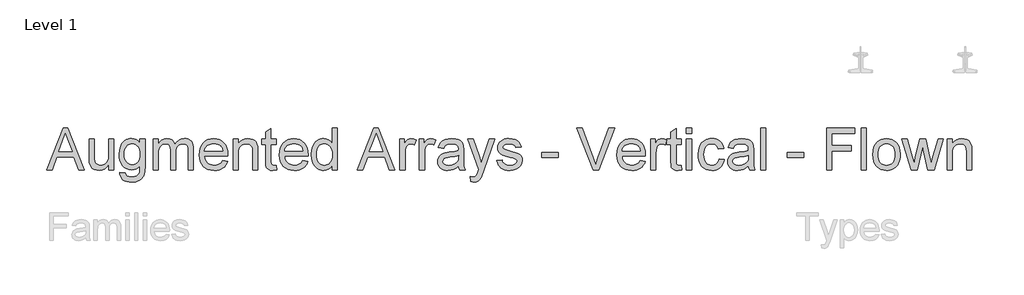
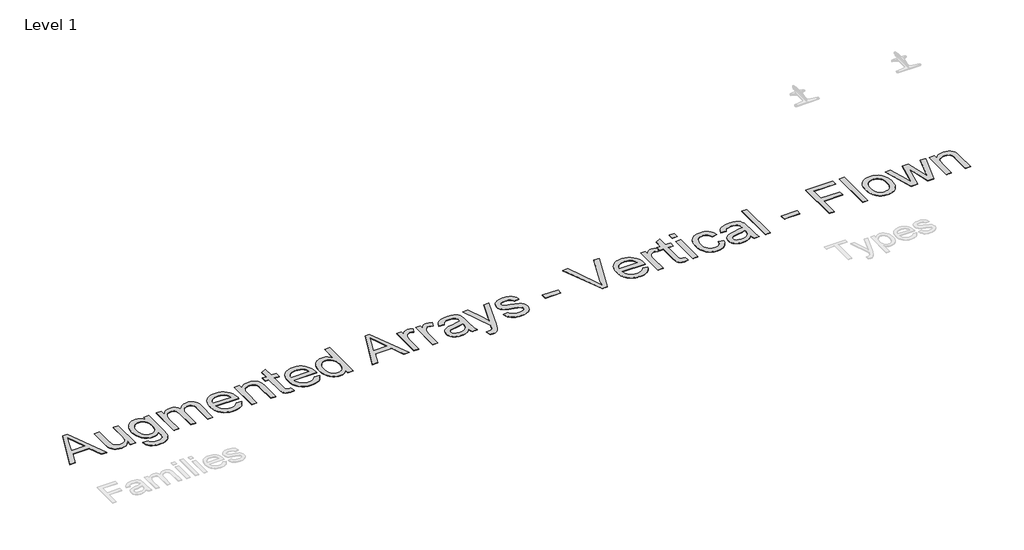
# One storey, part 3 of 9: 1 proxy.
"""IFC4 building model written with IfcOpenShell, lengths in millimetres."""

from ifc_helpers import new_model, si_unit, origin, origin_with_axes, place, context, project, spatial, polyline, outline, extrude, element, save

model = new_model("IFC4")

# Units and contexts
model_context = context("Model", 3, world=origin())
ifc_project = project(units=[si_unit("LENGTHUNIT", "METRE", prefix="MILLI")], contexts=[model_context])

# Site, building, storey
site = spatial("IfcSite", under=ifc_project)
building = spatial("IfcBuilding", under=site)
storey = spatial("IfcBuildingStorey", under=building, Name="Level 1", Elevation=0.0)

# Proxy
placement = place(None, origin())
element("IfcBuildingElementProxy", 1, Name="600mm Arial", ObjectType="600mm Arial", at=placement, inside=storey, context=model_context, shape_type="SweptSolid", body=[
    extrude(outline(polyline([(-21103.7520682, -648.6945164), (-20867.9347605, -57.9252857), (-20805.0501451, -57.9252857), (-20569.2328374, -648.6945164), (-20647.2616836, -648.6945164), (-20714.9059143, -464.0791318), (-20958.223222, -464.0791318), (-21025.723222, -648.6945164), (-21103.7520682, -648.6945164)]), holes=[polyline([(-20931.1078374, -390.232978), (-20741.8770682, -390.232978), (-20795.098222, -244.9925934), (-20836.4924528, -131.7714395), (-20873.271299, -232.3002857), (-20931.1078374, -390.232978)])]), origin_with_axes(), (0.0, 0.0, 1.0), 5.0),
    extrude(outline(polyline([(-20222.646299, -648.6945164), (-20222.646299, -574.1272087), (-20249.365049, -610.7888674), (-20280.4828374, -636.9757664), (-20315.9996643, -652.6879059), (-20355.9155297, -657.9252857), (-20391.8830778, -654.247401), (-20425.3626451, -643.2137472), (-20453.4515874, -626.6272087), (-20473.2472605, -606.2906703), (-20486.5705778, -581.591151), (-20495.2424528, -551.9156703), (-20499.5693759, -483.2618241), (-20499.5693759, -214.8483626), (-20425.723222, -214.8483626), (-20425.723222, -448.5022087), (-20424.6054336, -495.232978), (-20421.2520682, -523.7906703), (-20410.488847, -548.904853), (-20392.0453374, -567.997401), (-20367.1475009, -580.0586991), (-20337.021299, -584.0791318), (-20305.1643278, -579.9685549), (-20275.3626451, -567.6368241), (-20250.7893278, -548.2197568), (-20234.6174528, -522.8531703), (-20225.6390874, -488.1115837), (-20222.646299, -440.5695164), (-20222.646299, -214.8483626), (-20148.8001451, -214.8483626), (-20148.8001451, -648.6945164), (-20222.646299, -648.6945164)])), origin_with_axes(), (0.0, 0.0, 1.0), 5.0),
    extrude(outline(polyline([(-20065.723222, -685.6175934), (-19991.8770682, -694.8483626), (-19983.7280297, -717.9252857), (-19967.9347605, -733.7906703), (-19936.8890874, -746.122401), (-19896.2520682, -750.232978), (-19852.910722, -745.5815357), (-19835.4047124, -739.7672328), (-19820.6751451, -731.6272087), (-19798.3193759, -709.2714395), (-19784.6174528, -679.4156703), (-19780.615049, -647.6488434), (-19779.5693759, -593.309901), (-19804.1426932, -617.5406703), (-19831.5645682, -634.8483626), (-19861.8350009, -645.232978), (-19894.9539913, -648.6945164), (-19935.4422725, -644.6650693), (-19971.0898086, -632.576728), (-20001.8965994, -612.4294924), (-20027.8626451, -584.2233626), (-20048.4651091, -550.3832184), (-20063.1811547, -513.3339395), (-20072.0107821, -473.075526), (-20074.9539913, -429.607978), (-20069.6715393, -369.9865837), (-20053.8241836, -315.1608626), (-20042.0783903, -290.4388073), (-20027.9708182, -268.700526), (-20011.5014672, -249.9460188), (-19992.6703374, -234.1752857), (-19971.7794119, -221.6812953), (-19949.130674, -212.7570164), (-19924.7241235, -207.4024491), (-19898.5597605, -205.6175934), (-19864.0255057, -209.6560549), (-19832.6823567, -221.7714395), (-19804.5303134, -241.9637472), (-19779.5693759, -270.232978), (-19779.5693759, -214.8483626), (-19705.723222, -214.8483626), (-19705.723222, -589.4156703), (-19710.771299, -675.9000453), (-19717.0813951, -708.068014), (-19725.9155297, -732.8531703), (-19737.4855417, -752.8426534), (-19752.0032701, -770.623603), (-19769.4687148, -786.1960188), (-19789.8818759, -799.559901), (-19813.0354216, -810.2870645), (-19838.7220201, -817.9493241), (-19866.9416716, -822.5466799), (-19897.6943759, -824.0791318), (-19933.8737629, -821.9201775), (-19966.4023086, -815.4433145), (-19995.2800129, -804.6485429), (-20020.5068759, -789.5358626), (-20040.8839792, -770.0872448), (-20055.2124047, -746.2846607), (-20063.4921523, -718.1281102), (-20065.723222, -685.6175934)]), holes=[polyline([(-20001.1078374, -424.559901), (-19999.138186, -461.0728217), (-19993.2292317, -492.294276), (-19983.3809744, -518.224264), (-19969.5934143, -538.8627857), (-19952.8310946, -554.6064756), (-19934.0585586, -565.8519684), (-19913.2758062, -572.599264), (-19890.4828374, -574.8483626), (-19867.9152292, -572.6127857), (-19847.2316355, -565.9060549), (-19828.4320562, -554.7281703), (-19811.5164913, -539.0791318), (-19797.5396283, -518.6434347), (-19787.5561547, -493.1055741), (-19781.5660706, -462.4655501), (-19779.5693759, -426.7233626), (-19781.6246643, -392.4730621), (-19787.7905297, -362.7029299), (-19798.066972, -337.4129659), (-19812.4539913, -316.6031703), (-19829.7346403, -300.3546727), (-19848.691972, -288.748603), (-19869.3259865, -281.7849611), (-19891.6366836, -279.4637472), (-19913.5732821, -281.7489034), (-19933.8061547, -288.6043722), (-19952.3353014, -300.0301534), (-19969.160722, -316.0262472), (-19983.137585, -336.5205381), (-19993.1210586, -361.4409107), (-19999.1111427, -390.787365), (-20001.1078374, -424.559901)])]), origin_with_axes(), (0.0, 0.0, 1.0), 5.0),
    extrude(outline(polyline([(-19594.9539913, -648.6945164), (-19594.9539913, -214.8483626), (-19521.1078374, -214.8483626), (-19521.1078374, -286.2425934), (-19498.896299, -253.4481222), (-19470.3386067, -227.7570164), (-19436.4083182, -211.1524491), (-19398.0789913, -205.6175934), (-19357.0092797, -211.2606222), (-19339.5303134, -218.3144083), (-19324.0886067, -228.1897087), (-19299.4972605, -255.2870645), (-19283.4155297, -291.434901), (-19256.4984624, -253.8898289), (-19225.7953374, -227.0719203), (-19191.3061547, -210.9811751), (-19153.0309143, -205.6175934), (-19123.4681139, -207.8486631), (-19097.520097, -214.5418722), (-19075.1868639, -225.6972208), (-19056.4684143, -241.3147087), (-19041.6712389, -261.5746246), (-19031.1018278, -286.6572568), (-19024.7601812, -316.5626054), (-19022.646299, -351.2906703), (-19022.646299, -648.6945164), (-19096.4924528, -648.6945164), (-19096.4924528, -383.0214395), (-19098.2051932, -346.1885068), (-19103.3434143, -321.3627857), (-19112.9708182, -304.3615837), (-19128.1511067, -291.0022087), (-19147.676347, -282.3483626), (-19170.3386067, -279.4637472), (-19191.2655898, -281.3117039), (-19210.3446163, -286.8555741), (-19227.575686, -296.0953578), (-19242.958799, -309.0310549), (-19255.6105417, -326.0412712), (-19264.6475009, -347.5046126), (-19270.0696764, -373.4210789), (-19271.8770682, -403.7906703), (-19271.8770682, -648.6945164), (-19345.723222, -648.6945164), (-19345.723222, -374.8002857), (-19349.9960586, -333.045478), (-19362.8145682, -303.2618241), (-19372.7259264, -292.8501655), (-19385.3686547, -285.4132664), (-19400.7427533, -280.951127), (-19418.848222, -279.4637472), (-19447.2977413, -283.4300934), (-19473.5116836, -295.3291318), (-19495.146299, -314.872401), (-19509.8578374, -341.7714395), (-19518.2953374, -379.091151), (-19521.1078374, -429.8964395), (-19521.1078374, -648.6945164), (-19594.9539913, -648.6945164)])), origin_with_axes(), (0.0, 0.0, 1.0), 5.0),
    extrude(outline(polyline([(-18608.1270682, -519.4637472), (-18535.723222, -528.6945164), (-18546.8244841, -557.6939155), (-18561.8109624, -583.2498049), (-18580.6826571, -605.3621847), (-18603.4395682, -624.0310549), (-18629.8473206, -638.8597809), (-18659.6715393, -649.451728), (-18692.9122244, -655.8068962), (-18729.5693759, -657.9252857), (-18775.3896884, -654.2699371), (-18816.2160105, -643.3038914), (-18852.0483422, -625.0271486), (-18882.8866836, -599.4397087), (-18907.6853615, -567.2537111), (-18925.3987028, -529.1812953), (-18936.0267076, -485.2224611), (-18939.5693759, -435.3772087), (-18935.9906499, -383.841752), (-18925.254472, -338.4180741), (-18907.3608422, -299.1061751), (-18882.3097605, -265.9060549), (-18851.552549, -239.529853), (-18816.5405297, -220.6897087), (-18777.2737028, -209.3856222), (-18733.7520682, -205.6175934), (-18691.6321764, -209.3766078), (-18653.5417317, -220.653651), (-18619.4807341, -239.4487232), (-18589.4491836, -265.7618241), (-18564.93446, -298.8898289), (-18547.4239432, -338.1296126), (-18536.9176331, -383.4811751), (-18533.4155297, -434.9445164), (-18533.848222, -454.8483626), (-18865.723222, -454.8483626), (-18861.4458783, -484.3165116), (-18852.9407701, -510.1248049), (-18840.2078975, -532.2732424), (-18823.2472605, -550.7618241), (-18802.9963591, -565.3381462), (-18780.3926932, -575.7498049), (-18755.4362629, -581.9968001), (-18728.1270682, -584.0791318), (-18688.8241836, -580.2209587), (-18655.723222, -568.6464395), (-18628.8241836, -548.6344203), (-18608.1270682, -519.4637472)]), holes=[polyline([(-18865.723222, -381.0022087), (-18607.2616836, -381.0022087), (-18617.2496643, -341.9877857), (-18625.8404095, -326.6452376), (-18636.8289913, -314.0791318), (-18656.9672124, -298.934901), (-18679.8818759, -288.1175934), (-18705.5729817, -281.6272087), (-18734.0405297, -279.4637472), (-18760.0065754, -281.1900092), (-18783.818174, -286.3687953), (-18805.4753254, -295.0001054), (-18824.9780297, -307.0839395), (-18841.3437148, -322.0614034), (-18853.5898086, -339.373603), (-18861.716311, -359.0205381), (-18865.723222, -381.0022087)])]), origin_with_axes(), (0.0, 0.0, 1.0), 5.0),
    extrude(outline(polyline([(-18459.5693759, -648.6945164), (-18459.5693759, -214.8483626), (-18385.723222, -214.8483626), (-18385.723222, -275.4252857), (-18360.068174, -244.8844203), (-18329.2568759, -223.0695164), (-18293.2893278, -209.9805741), (-18252.1655297, -205.6175934), (-18215.7652893, -209.1332184), (-18182.4299528, -219.6800934), (-18154.629472, -235.9421126), (-18134.833799, -256.6031703), (-18121.4023086, -281.6091799), (-18112.6943759, -310.9060549), (-18108.8001451, -382.3002857), (-18108.8001451, -648.6945164), (-18182.646299, -648.6945164), (-18182.646299, -392.2522087), (-18184.7737028, -354.0671126), (-18191.1559143, -326.9156703), (-18202.9287509, -307.4625453), (-18221.2280297, -292.372401), (-18244.6835586, -282.6909107), (-18271.9251451, -279.4637472), (-18294.3485225, -281.2756462), (-18315.176347, -286.7113434), (-18334.4086187, -295.7708385), (-18352.0453374, -308.4541318), (-18366.7794119, -326.2035309), (-18377.3037509, -350.4613434), (-18383.6183542, -381.2275693), (-18385.723222, -418.5022087), (-18385.723222, -648.6945164), (-18459.5693759, -648.6945164)])), origin_with_axes(), (0.0, 0.0, 1.0), 5.0),
    extrude(outline(polyline([(-17850.3386067, -587.107978), (-17841.1078374, -650.857978), (-17896.348222, -657.9252857), (-17931.7929336, -654.8603818), (-17958.223222, -645.6656703), (-17976.9011067, -631.4949972), (-17989.0886067, -613.5022087), (-17995.7953374, -582.6007664), (-17998.0309143, -529.7041318), (-17998.0309143, -288.6945164), (-18053.4155297, -288.6945164), (-18053.4155297, -214.8483626), (-17998.0309143, -214.8483626), (-17998.0309143, -109.4156703), (-17924.1847605, -66.0022087), (-17924.1847605, -214.8483626), (-17850.3386067, -214.8483626), (-17850.3386067, -288.6945164), (-17924.1847605, -288.6945164), (-17924.1847605, -527.5406703), (-17920.2905297, -565.6175934), (-17907.6703374, -579.1031703), (-17897.0152893, -582.8351414), (-17882.5020682, -584.0791318), (-17850.3386067, -587.107978)])), origin_with_axes(), (0.0, 0.0, 1.0), 5.0),
    extrude(outline(polyline([(-17472.7424528, -519.4637472), (-17400.3386067, -528.6945164), (-17411.4398687, -557.6939155), (-17426.426347, -583.2498049), (-17445.2980417, -605.3621847), (-17468.0549528, -624.0310549), (-17494.4627052, -638.8597809), (-17524.286924, -649.451728), (-17557.5276091, -655.8068962), (-17594.1847605, -657.9252857), (-17640.005073, -654.2699371), (-17680.8313951, -643.3038914), (-17716.6637268, -625.0271486), (-17747.5020682, -599.4397087), (-17772.3007461, -567.2537111), (-17790.0140874, -529.1812953), (-17800.6420922, -485.2224611), (-17804.1847605, -435.3772087), (-17800.6060345, -383.841752), (-17789.8698567, -338.4180741), (-17771.9762268, -299.1061751), (-17746.9251451, -265.9060549), (-17716.1679336, -239.529853), (-17681.1559143, -220.6897087), (-17641.8890874, -209.3856222), (-17598.3674528, -205.6175934), (-17556.247561, -209.3766078), (-17518.1571163, -220.653651), (-17484.0961187, -239.4487232), (-17454.0645682, -265.7618241), (-17429.5498446, -298.8898289), (-17412.0393278, -338.1296126), (-17401.5330177, -383.4811751), (-17398.0309143, -434.9445164), (-17398.4636067, -454.8483626), (-17730.3386067, -454.8483626), (-17726.0612629, -484.3165116), (-17717.5561547, -510.1248049), (-17704.8232821, -532.2732424), (-17687.8626451, -550.7618241), (-17667.6117437, -565.3381462), (-17645.0080778, -575.7498049), (-17620.0516475, -581.9968001), (-17592.7424528, -584.0791318), (-17553.4395682, -580.2209587), (-17520.3386067, -568.6464395), (-17493.4395682, -548.6344203), (-17472.7424528, -519.4637472)]), holes=[polyline([(-17730.3386067, -381.0022087), (-17471.8770682, -381.0022087), (-17481.865049, -341.9877857), (-17490.4557942, -326.6452376), (-17501.4443759, -314.0791318), (-17521.582597, -298.934901), (-17544.4972605, -288.1175934), (-17570.1883663, -281.6272087), (-17598.6559143, -279.4637472), (-17624.62196, -281.1900092), (-17648.4335586, -286.3687953), (-17670.09071, -295.0001054), (-17689.5934143, -307.0839395), (-17705.9590994, -322.0614034), (-17718.2051932, -339.373603), (-17726.3316956, -359.0205381), (-17730.3386067, -381.0022087)])]), origin_with_axes(), (0.0, 0.0, 1.0), 5.0),
    extrude(outline(polyline([(-17056.4924528, -648.6945164), (-17056.4924528, -579.0310549), (-17078.5868038, -613.5472809), (-17105.3506259, -638.201728), (-17136.7839192, -652.9943962), (-17172.8866836, -657.9252857), (-17197.2616836, -656.1404299), (-17220.6270682, -650.7858626), (-17242.9828374, -641.8615837), (-17264.3289913, -629.3675934), (-17283.9984624, -613.67799), (-17301.3241836, -595.1668722), (-17316.3061547, -573.83424), (-17328.9443759, -549.6800934), (-17338.9774288, -523.1641679), (-17346.1438951, -494.7461991), (-17351.8770682, -432.2041318), (-17346.5946163, -370.4373049), (-17330.7472605, -314.6560549), (-17318.8662509, -289.8032905), (-17304.3530297, -268.0334587), (-17287.207597, -249.3465597), (-17267.4299528, -233.7425934), (-17245.7187148, -221.4379059), (-17222.7725009, -212.6488434), (-17198.591311, -207.3754059), (-17173.1751451, -205.6175934), (-17137.0453374, -210.6476414), (-17105.098222, -225.7377857), (-17078.0188951, -248.8687953), (-17056.4924528, -278.0214395), (-17056.4924528, -57.9252857), (-16982.646299, -57.9252857), (-16982.646299, -648.6945164), (-17056.4924528, -648.6945164)]), holes=[polyline([(-17278.0309143, -431.9156703), (-17275.9485826, -467.7254659), (-17269.7015874, -498.7125453), (-17259.2899288, -524.8769083), (-17244.7136067, -546.2185549), (-17227.3067557, -562.7825573), (-17208.4035105, -574.6139876), (-17188.0038711, -581.7128458), (-17166.1078374, -584.0791318), (-17144.1081379, -581.8210188), (-17123.8301932, -575.0466799), (-17105.2740033, -563.756115), (-17088.4395682, -547.9493241), (-17074.4627052, -527.5001054), (-17064.4792317, -502.2822568), (-17058.4891475, -472.2957784), (-17056.4924528, -437.5406703), (-17058.5252052, -399.4367039), (-17064.6234624, -366.7594203), (-17074.7872244, -339.5088193), (-17089.0164913, -317.684901), (-17106.2205177, -300.9631462), (-17125.3085586, -289.0190357), (-17146.2806139, -281.8525693), (-17169.1366836, -279.4637472), (-17191.4654095, -281.7579179), (-17211.865049, -288.6404299), (-17230.3356018, -300.1112833), (-17246.8770682, -316.170478), (-17260.5068759, -337.1695765), (-17270.2424528, -363.4601414), (-17276.083799, -395.0421727), (-17278.0309143, -431.9156703)])]), origin_with_axes(), (0.0, 0.0, 1.0), 5.0),
    extrude(outline(polyline([(-16700.6751451, -648.6945164), (-16464.8578374, -57.9252857), (-16401.973222, -57.9252857), (-16166.1559143, -648.6945164), (-16244.1847605, -648.6945164), (-16311.8289913, -464.0791318), (-16555.146299, -464.0791318), (-16622.646299, -648.6945164), (-16700.6751451, -648.6945164)]), holes=[polyline([(-16528.0309143, -390.232978), (-16338.8001451, -390.232978), (-16392.021299, -244.9925934), (-16433.4155297, -131.7714395), (-16470.1943759, -232.3002857), (-16528.0309143, -390.232978)])]), origin_with_axes(), (0.0, 0.0, 1.0), 5.0),
    extrude(outline(polyline([(-16096.4924528, -648.6945164), (-16096.4924528, -214.8483626), (-16031.8770682, -214.8483626), (-16031.8770682, -279.0310549), (-16008.0068759, -241.8195164), (-15986.0116836, -219.8964395), (-15963.9443759, -209.1873049), (-15939.8578374, -205.6175934), (-15903.0789913, -211.3147087), (-15865.723222, -228.4060549), (-15890.3866836, -294.607978), (-15916.348222, -283.2498049), (-15942.3097605, -279.4637472), (-15964.3590393, -283.1055741), (-15984.0645682, -294.0310549), (-15999.9840393, -311.4108626), (-16010.6751451, -334.4156703), (-16019.6535105, -375.6656703), (-16022.646299, -420.6656703), (-16022.646299, -648.6945164), (-16096.4924528, -648.6945164)])), origin_with_axes(), (0.0, 0.0, 1.0), 5.0),
    extrude(outline(polyline([(-15819.5693759, -648.6945164), (-15819.5693759, -214.8483626), (-15754.9539913, -214.8483626), (-15754.9539913, -279.0310549), (-15731.083799, -241.8195164), (-15709.0886067, -219.8964395), (-15687.021299, -209.1873049), (-15662.9347605, -205.6175934), (-15626.1559143, -211.3147087), (-15588.8001451, -228.4060549), (-15613.4636067, -294.607978), (-15639.4251451, -283.2498049), (-15665.3866836, -279.4637472), (-15687.4359624, -283.1055741), (-15707.1414913, -294.0310549), (-15723.0609624, -311.4108626), (-15733.7520682, -334.4156703), (-15742.7304336, -375.6656703), (-15745.723222, -420.6656703), (-15745.723222, -648.6945164), (-15819.5693759, -648.6945164)])), origin_with_axes(), (0.0, 0.0, 1.0), 5.0),
    extrude(outline(polyline([(-15265.723222, -593.309901), (-15301.005674, -623.5623049), (-15337.333799, -643.357978), (-15375.536924, -654.2834587), (-15416.4443759, -657.9252857), (-15449.3244841, -655.7347809), (-15478.1571163, -649.1632664), (-15502.9422725, -638.2107424), (-15523.6799528, -622.8772087), (-15540.0546523, -604.1362232), (-15551.7508663, -582.9613434), (-15558.7685946, -559.3525693), (-15561.1078374, -533.309901), (-15557.5741836, -502.6969203), (-15546.973222, -474.8964395), (-15530.6210586, -451.0983626), (-15509.833799, -432.4925934), (-15485.4047124, -418.4300934), (-15458.1270682, -408.2618241), (-15394.2328374, -397.1560549), (-15318.7280297, -385.4733626), (-15266.1559143, -371.7714395), (-15265.723222, -355.3291318), (-15270.8073567, -322.372401), (-15277.1625249, -310.1668722), (-15286.0597605, -300.809901), (-15301.4383663, -291.4709587), (-15320.1703374, -284.8002857), (-15367.6943759, -279.4637472), (-15411.6847605, -283.0154299), (-15442.4059143, -293.670478), (-15463.3554336, -313.3760068), (-15478.0309143, -344.0791318), (-15551.8770682, -334.8483626), (-15539.0585586, -294.4637472), (-15519.9299528, -262.732978), (-15492.7063951, -238.466151), (-15455.6030297, -220.4733626), (-15410.224424, -209.3315357), (-15358.1751451, -205.6175934), (-15308.2532701, -208.8988434), (-15268.6799528, -218.7425934), (-15238.8422124, -233.544276), (-15218.1270682, -251.6993241), (-15204.3890874, -274.1452376), (-15195.4828374, -301.8195164), (-15191.8770682, -366.434901), (-15191.8770682, -458.309901), (-15188.1270682, -586.6031703), (-15182.5741836, -618.3159107), (-15173.4155297, -648.6945164), (-15247.2616836, -648.6945164), (-15259.0886067, -623.0214395), (-15265.723222, -593.309901)]), holes=[polyline([(-15265.723222, -445.6175934), (-15315.3386067, -457.9132664), (-15384.8578374, -468.2618241), (-15448.3914913, -480.232978), (-15464.9239432, -488.4180741), (-15477.1655297, -499.7041318), (-15484.7376451, -513.2257664), (-15487.2616836, -528.1175934), (-15481.7628855, -550.076728), (-15465.2664913, -568.0695164), (-15438.1330778, -580.076728), (-15400.723222, -584.0791318), (-15361.0597605, -579.6620645), (-15326.0116836, -566.4108626), (-15297.598222, -546.8856222), (-15277.8386067, -523.6464395), (-15269.0765874, -499.7041318), (-15266.1559143, -466.5310549), (-15265.723222, -445.6175934)])]), origin_with_axes(), (0.0, 0.0, 1.0), 5.0),
    extrude(outline(polyline([(-15090.3386067, -814.8483626), (-15099.5693759, -743.7425934), (-15062.0693759, -750.232978), (-15042.3458182, -748.1957184), (-15027.021299, -742.0839395), (-15015.0862028, -732.3303337), (-15005.5309143, -719.3675934), (-14985.3386067, -664.9925934), (-14979.5693759, -647.107978), (-15136.4924528, -214.8483626), (-15058.6078374, -214.8483626), (-14975.3866836, -455.7137472), (-14946.396299, -552.059901), (-14917.4059143, -466.9637472), (-14831.8770682, -214.8483626), (-14754.5693759, -214.8483626), (-14905.5789913, -659.0791318), (-14944.8097605, -755.4252857), (-14964.8938951, -786.1824972), (-14987.646299, -807.4925934), (-15014.0765874, -819.9324972), (-15045.1943759, -824.0791318), (-15066.5765874, -821.7714395), (-15090.3386067, -814.8483626)])), origin_with_axes(), (0.0, 0.0, 1.0), 5.0),
    extrude(outline(polyline([(-14721.1078374, -519.4637472), (-14647.2616836, -510.232978), (-14642.7995442, -527.0719203), (-14635.615049, -541.8195164), (-14625.708198, -554.4757664), (-14613.0789913, -565.0406703), (-14597.6913711, -573.3699972), (-14579.5092797, -579.3195164), (-14534.7616836, -584.0791318), (-14490.5549528, -579.716151), (-14473.3734624, -574.2624251), (-14459.473222, -566.6272087), (-14441.083799, -547.6608626), (-14434.9539913, -525.6656703), (-14436.4954576, -515.6957184), (-14441.1198567, -506.8435549), (-14459.6174528, -492.4925934), (-14487.2737028, -483.1175934), (-14535.6270682, -471.434901), (-14603.0188951, -451.9457184), (-14646.8289913, -435.3050934), (-14674.9720201, -417.1500453), (-14695.3626451, -393.1175934), (-14707.7484624, -364.7401895), (-14711.8770682, -333.5502857), (-14708.5597605, -304.9385068), (-14698.6078374, -278.5262472), (-14682.9227413, -255.3591799), (-14662.4059143, -236.482978), (-14642.0152893, -224.6019684), (-14615.458799, -214.6320164), (-14584.755674, -207.8711991), (-14551.9251451, -205.6175934), (-14503.8602413, -209.2413914), (-14462.0693759, -220.1127857), (-14428.4636067, -237.1680741), (-14404.9539913, -259.3435549), (-14389.3770682, -288.279853), (-14379.5693759, -325.6175934), (-14453.4155297, -334.8483626), (-14462.7364432, -311.6091799), (-14481.1799528, -294.1031703), (-14508.926347, -283.123603), (-14546.1559143, -279.4637472), (-14588.5597605, -282.9613434), (-14616.8289913, -293.4541318), (-14632.7304336, -308.5983626), (-14638.0309143, -326.0502857), (-14635.8313951, -337.4084587), (-14629.2328374, -347.5406703), (-14617.9467797, -356.591151), (-14601.6847605, -363.8387472), (-14538.0789913, -379.559901), (-14429.6895682, -414.3195164), (-14401.0597605, -430.9421126), (-14379.3530297, -453.6945164), (-14365.6691355, -482.6488434), (-14361.1078374, -517.8772087), (-14366.4624047, -554.295478), (-14382.5261067, -588.5502857), (-14408.6859624, -617.9553337), (-14444.3289913, -639.8243241), (-14487.3818759, -653.4000453), (-14535.771299, -657.9252857), (-14575.5158903, -655.7437953), (-14610.2304336, -649.1993241), (-14639.9149288, -638.2918722), (-14664.5693759, -623.0214395), (-14684.707597, -603.4601414), (-14700.8434143, -579.6800934), (-14712.9768278, -551.6812953), (-14721.1078374, -519.4637472)])), origin_with_axes(), (0.0, 0.0, 1.0), 5.0),
    extrude(outline(polyline([(-14084.1847605, -473.309901), (-14084.1847605, -399.4637472), (-13853.4155297, -399.4637472), (-13853.4155297, -473.309901), (-14084.1847605, -473.309901)])), origin_with_axes(), (0.0, 0.0, 1.0), 5.0),
    extrude(outline(polyline([(-13355.8193759, -648.6945164), (-13590.9155297, -57.9252857), (-13511.8770682, -57.9252857), (-13354.521299, -483.5502857), (-13322.646299, -579.4637472), (-13291.2039913, -483.5502857), (-13133.4155297, -57.9252857), (-13054.3770682, -57.9252857), (-13279.521299, -648.6945164), (-13355.8193759, -648.6945164)])), origin_with_axes(), (0.0, 0.0, 1.0), 5.0),
    extrude(outline(polyline([(-12691.2039913, -519.4637472), (-12618.8001451, -528.6945164), (-12629.9014071, -557.6939155), (-12644.8878855, -583.2498049), (-12663.7595802, -605.3621847), (-12686.5164913, -624.0310549), (-12712.9242437, -638.8597809), (-12742.7484624, -649.451728), (-12775.9891475, -655.8068962), (-12812.646299, -657.9252857), (-12858.4666115, -654.2699371), (-12899.2929336, -643.3038914), (-12935.1252653, -625.0271486), (-12965.9636067, -599.4397087), (-12990.7622845, -567.2537111), (-13008.4756259, -529.1812953), (-13019.1036307, -485.2224611), (-13022.646299, -435.3772087), (-13019.067573, -383.841752), (-13008.3313951, -338.4180741), (-12990.4377653, -299.1061751), (-12965.3866836, -265.9060549), (-12934.629472, -239.529853), (-12899.6174528, -220.6897087), (-12860.3506259, -209.3856222), (-12816.8289913, -205.6175934), (-12774.7090994, -209.3766078), (-12736.6186547, -220.653651), (-12702.5576571, -239.4487232), (-12672.5261067, -265.7618241), (-12648.0113831, -298.8898289), (-12630.5008663, -338.1296126), (-12619.9945562, -383.4811751), (-12616.4924528, -434.9445164), (-12616.9251451, -454.8483626), (-12948.8001451, -454.8483626), (-12944.5228014, -484.3165116), (-12936.0176932, -510.1248049), (-12923.2848206, -532.2732424), (-12906.3241836, -550.7618241), (-12886.0732821, -565.3381462), (-12863.4696163, -575.7498049), (-12838.513186, -581.9968001), (-12811.2039913, -584.0791318), (-12771.9011067, -580.2209587), (-12738.8001451, -568.6464395), (-12711.9011067, -548.6344203), (-12691.2039913, -519.4637472)]), holes=[polyline([(-12948.8001451, -381.0022087), (-12690.3386067, -381.0022087), (-12700.3265874, -341.9877857), (-12708.9173326, -326.6452376), (-12719.9059143, -314.0791318), (-12740.0441355, -298.934901), (-12762.958799, -288.1175934), (-12788.6499047, -281.6272087), (-12817.1174528, -279.4637472), (-12843.0834985, -281.1900092), (-12866.895097, -286.3687953), (-12888.5522485, -295.0001054), (-12908.0549528, -307.0839395), (-12924.4206379, -322.0614034), (-12936.6667317, -339.373603), (-12944.7932341, -359.0205381), (-12948.8001451, -381.0022087)])]), origin_with_axes(), (0.0, 0.0, 1.0), 5.0),
    extrude(outline(polyline([(-12542.646299, -648.6945164), (-12542.646299, -214.8483626), (-12478.0309143, -214.8483626), (-12478.0309143, -279.0310549), (-12454.160722, -241.8195164), (-12432.1655297, -219.8964395), (-12410.098222, -209.1873049), (-12386.0116836, -205.6175934), (-12349.2328374, -211.3147087), (-12311.8770682, -228.4060549), (-12336.5405297, -294.607978), (-12362.5020682, -283.2498049), (-12388.4636067, -279.4637472), (-12410.5128855, -283.1055741), (-12430.2184143, -294.0310549), (-12446.1378855, -311.4108626), (-12456.8289913, -334.4156703), (-12465.8073567, -375.6656703), (-12468.8001451, -420.6656703), (-12468.8001451, -648.6945164), (-12542.646299, -648.6945164)])), origin_with_axes(), (0.0, 0.0, 1.0), 5.0),
    extrude(outline(polyline([(-12108.8001451, -587.107978), (-12099.5693759, -650.857978), (-12154.8097605, -657.9252857), (-12190.254472, -654.8603818), (-12216.6847605, -645.6656703), (-12235.3626451, -631.4949972), (-12247.5501451, -613.5022087), (-12254.2568759, -582.6007664), (-12256.4924528, -529.7041318), (-12256.4924528, -288.6945164), (-12311.8770682, -288.6945164), (-12311.8770682, -214.8483626), (-12256.4924528, -214.8483626), (-12256.4924528, -109.4156703), (-12182.646299, -66.0022087), (-12182.646299, -214.8483626), (-12108.8001451, -214.8483626), (-12108.8001451, -288.6945164), (-12182.646299, -288.6945164), (-12182.646299, -527.5406703), (-12178.7520682, -565.6175934), (-12166.1318759, -579.1031703), (-12155.4768278, -582.8351414), (-12140.9636067, -584.0791318), (-12108.8001451, -587.107978)])), origin_with_axes(), (0.0, 0.0, 1.0), 5.0),
    extrude(outline(polyline([(-12034.9539913, -648.6945164), (-12034.9539913, -214.8483626), (-11961.1078374, -214.8483626), (-11961.1078374, -648.6945164), (-12034.9539913, -648.6945164)])), origin_with_axes(), (0.0, 0.0, 1.0), 5.0),
    extrude(outline(polyline([(-12034.9539913, -131.7714395), (-12034.9539913, -57.9252857), (-11961.1078374, -57.9252857), (-11961.1078374, -131.7714395), (-12034.9539913, -131.7714395)])), origin_with_axes(), (0.0, 0.0, 1.0), 5.0),
    extrude(outline(polyline([(-11573.4155297, -491.7714395), (-11499.5693759, -501.0022087), (-11507.6012268, -535.8474611), (-11520.1583182, -566.6812953), (-11537.2406499, -593.5037111), (-11558.848222, -616.3147087), (-11584.0705778, -634.5193361), (-11611.9972605, -647.5226414), (-11642.6282701, -655.3246246), (-11675.9636067, -657.9252857), (-11717.3803735, -654.2969804), (-11754.5152893, -643.4120645), (-11787.3683542, -625.2705381), (-11815.9395682, -599.872401), (-11839.0660706, -567.6954179), (-11855.5850009, -529.217353), (-11865.4963591, -484.4382063), (-11868.8001451, -433.357978), (-11863.1571163, -367.6428337), (-11856.1033302, -338.0710188), (-11846.2280297, -310.6897087), (-11833.4636067, -286.0487833), (-11817.7424528, -264.6981222), (-11799.0645682, -246.6377256), (-11777.4299528, -231.8675934), (-11753.8166716, -220.3832184), (-11729.2027893, -212.1800934), (-11703.5883062, -207.2582184), (-11676.973222, -205.6175934), (-11644.2103014, -207.8711991), (-11614.5753855, -214.6320164), (-11588.0684744, -225.9000453), (-11564.6895682, -241.6752857), (-11544.8353014, -261.5971607), (-11528.9023086, -285.3050934), (-11516.8905898, -312.7990837), (-11508.8001451, -344.0791318), (-11582.646299, -353.309901), (-11596.0417317, -321.092353), (-11616.9011067, -297.997401), (-11644.0705778, -284.0971607), (-11676.396299, -279.4637472), (-11701.4879456, -281.7443962), (-11724.1186547, -288.5863434), (-11744.2884264, -299.9895885), (-11761.9972605, -315.9541318), (-11776.4158302, -336.8495645), (-11786.7148086, -363.045478), (-11792.8941956, -394.5418722), (-11794.9539913, -431.3387472), (-11792.9392677, -468.6900092), (-11786.895097, -500.5514876), (-11776.8214792, -526.9231823), (-11762.7184143, -547.8050934), (-11745.3611427, -563.6749852), (-11725.5249047, -575.0106222), (-11703.2097004, -581.8120044), (-11678.4155297, -584.0791318), (-11640.176347, -578.4180741), (-11623.6393879, -571.341752), (-11608.8241836, -561.434901), (-11596.1453975, -548.5893482), (-11586.0176932, -532.6969203), (-11578.4410706, -513.7576174), (-11573.4155297, -491.7714395)])), origin_with_axes(), (0.0, 0.0, 1.0), 5.0),
    extrude(outline(polyline([(-11158.0309143, -593.309901), (-11193.3133663, -623.5623049), (-11229.6414913, -643.357978), (-11267.8446163, -654.2834587), (-11308.7520682, -657.9252857), (-11341.6321764, -655.7347809), (-11370.4648086, -649.1632664), (-11395.2499648, -638.2107424), (-11415.9876451, -622.8772087), (-11432.3623446, -604.1362232), (-11444.0585586, -582.9613434), (-11451.0762869, -559.3525693), (-11453.4155297, -533.309901), (-11449.8818759, -502.6969203), (-11439.2809143, -474.8964395), (-11422.9287509, -451.0983626), (-11402.1414913, -432.4925934), (-11377.7124047, -418.4300934), (-11350.4347605, -408.2618241), (-11286.5405297, -397.1560549), (-11211.035722, -385.4733626), (-11158.4636067, -371.7714395), (-11158.0309143, -355.3291318), (-11163.115049, -322.372401), (-11169.4702172, -310.1668722), (-11178.3674528, -300.809901), (-11193.7460586, -291.4709587), (-11212.4780297, -284.8002857), (-11260.0020682, -279.4637472), (-11303.9924528, -283.0154299), (-11334.7136067, -293.670478), (-11355.6631259, -313.3760068), (-11370.3386067, -344.0791318), (-11444.1847605, -334.8483626), (-11431.3662509, -294.4637472), (-11412.2376451, -262.732978), (-11385.0140874, -238.466151), (-11347.910722, -220.4733626), (-11302.5321163, -209.3315357), (-11250.4828374, -205.6175934), (-11200.5609624, -208.8988434), (-11160.9876451, -218.7425934), (-11131.1499047, -233.544276), (-11110.4347605, -251.6993241), (-11096.6967797, -274.1452376), (-11087.7905297, -301.8195164), (-11084.1847605, -366.434901), (-11084.1847605, -458.309901), (-11080.4347605, -586.6031703), (-11074.8818759, -618.3159107), (-11065.723222, -648.6945164), (-11139.5693759, -648.6945164), (-11151.396299, -623.0214395), (-11158.0309143, -593.309901)]), holes=[polyline([(-11158.0309143, -445.6175934), (-11207.646299, -457.9132664), (-11277.1655297, -468.2618241), (-11340.6991836, -480.232978), (-11357.2316355, -488.4180741), (-11369.473222, -499.7041318), (-11377.0453374, -513.2257664), (-11379.5693759, -528.1175934), (-11374.0705778, -550.076728), (-11357.5741836, -568.0695164), (-11330.4407701, -580.076728), (-11293.0309143, -584.0791318), (-11253.3674528, -579.6620645), (-11218.3193759, -566.4108626), (-11189.9059143, -546.8856222), (-11170.146299, -523.6464395), (-11161.3842797, -499.7041318), (-11158.4636067, -466.5310549), (-11158.0309143, -445.6175934)])]), origin_with_axes(), (0.0, 0.0, 1.0), 5.0),
    extrude(outline(polyline([(-10982.646299, -648.6945164), (-10982.646299, -57.9252857), (-10908.8001451, -57.9252857), (-10908.8001451, -648.6945164), (-10982.646299, -648.6945164)])), origin_with_axes(), (0.0, 0.0, 1.0), 5.0),
    extrude(outline(polyline([(-10604.1847605, -473.309901), (-10604.1847605, -399.4637472), (-10373.4155297, -399.4637472), (-10373.4155297, -473.309901), (-10604.1847605, -473.309901)])), origin_with_axes(), (0.0, 0.0, 1.0), 5.0),
    extrude(outline(polyline([(-10050.3386067, -648.6945164), (-10050.3386067, -57.9252857), (-9653.4155297, -57.9252857), (-9653.4155297, -131.7714395), (-9976.4924528, -131.7714395), (-9976.4924528, -307.1560549), (-9699.5693759, -307.1560549), (-9699.5693759, -381.0022087), (-9976.4924528, -381.0022087), (-9976.4924528, -648.6945164), (-10050.3386067, -648.6945164)])), origin_with_axes(), (0.0, 0.0, 1.0), 5.0),
    extrude(outline(polyline([(-9561.1078374, -648.6945164), (-9561.1078374, -57.9252857), (-9487.2616836, -57.9252857), (-9487.2616836, -648.6945164), (-9561.1078374, -648.6945164)])), origin_with_axes(), (0.0, 0.0, 1.0), 5.0),
    extrude(outline(polyline([(-9394.9539913, -431.7714395), (-9390.9606018, -375.5845405), (-9378.9804336, -327.1680741), (-9359.0134865, -286.5220405), (-9331.0597605, -253.6464395), (-9302.9167317, -232.6338193), (-9271.8530297, -217.6248049), (-9237.8686547, -208.6193962), (-9200.9636067, -205.6175934), (-9160.2229216, -209.2729419), (-9123.3854817, -220.2389876), (-9090.4512869, -238.5157304), (-9061.4203374, -264.1031703), (-9037.7259264, -296.1359227), (-9020.801347, -333.748603), (-9010.6465994, -376.9412111), (-9007.2616836, -425.7137472), (-9008.7580778, -465.2419924), (-9013.2472605, -500.3171126), (-9020.7292317, -530.9391078), (-9031.2039913, -557.107978), (-9044.5408302, -579.7116438), (-9060.6090393, -599.638026), (-9079.4086187, -616.8871246), (-9100.9395682, -631.4589395), (-9124.3635466, -643.0379659), (-9148.8422124, -651.3086991), (-9174.3755658, -656.271139), (-9200.9636067, -657.9252857), (-9242.2992437, -654.2834587), (-9279.4792317, -643.357978), (-9312.5035706, -625.1488434), (-9341.3722605, -599.6560549), (-9364.8142677, -567.3123049), (-9381.5585586, -528.5502857), (-9391.6051331, -483.3699972), (-9394.9539913, -431.7714395)]), holes=[polyline([(-9321.1078374, -431.6272087), (-9318.9714192, -467.4460188), (-9312.5621643, -498.4601414), (-9301.880073, -524.6695765), (-9286.9251451, -546.0743241), (-9268.7340393, -562.7014275), (-9248.3434143, -574.5779299), (-9225.7532701, -581.7038313), (-9200.9636067, -584.0791318), (-9176.3001451, -581.6903097), (-9153.8001451, -574.5238434), (-9133.4636067, -562.5797328), (-9115.2905297, -545.857978), (-9100.3356018, -524.2413914), (-9089.6535105, -497.6127857), (-9083.2442557, -465.9721607), (-9081.1078374, -429.3195164), (-9083.2577773, -394.6365236), (-9089.707597, -364.4336991), (-9100.4572966, -338.7110429), (-9115.5068759, -317.4685549), (-9133.747561, -300.8414515), (-9154.0705778, -288.9649491), (-9176.4759264, -281.8390477), (-9200.9636067, -279.4637472), (-9225.7532701, -281.8300333), (-9248.3434143, -288.9288914), (-9268.7340393, -300.7603217), (-9286.9251451, -317.3243241), (-9301.880073, -338.6659708), (-9312.5621643, -364.8303337), (-9318.9714192, -395.8174131), (-9321.1078374, -431.6272087)])]), origin_with_axes(), (0.0, 0.0, 1.0), 5.0),
    extrude(outline(polyline([(-8852.2136067, -648.6945164), (-8984.1847605, -214.8483626), (-8907.4539913, -214.8483626), (-8832.598222, -467.9733626), (-8810.2424528, -558.4060549), (-8791.9251451, -471.2906703), (-8732.3578374, -214.8483626), (-8644.3770682, -214.8483626), (-8585.098222, -470.5695164), (-8568.8001451, -549.4637472), (-8545.4347605, -466.2425934), (-8470.4347605, -214.8483626), (-8393.4155297, -214.8483626), (-8526.396299, -648.6945164), (-8615.6751451, -648.6945164), (-8672.3578374, -394.2714395), (-8688.8001451, -314.9445164), (-8761.9251451, -648.6945164), (-8852.2136067, -648.6945164)])), origin_with_axes(), (0.0, 0.0, 1.0), 5.0),
    extrude(outline(polyline([(-8342.646299, -648.6945164), (-8342.646299, -214.8483626), (-8268.8001451, -214.8483626), (-8268.8001451, -275.4252857), (-8243.145097, -244.8844203), (-8212.333799, -223.0695164), (-8176.3662509, -209.9805741), (-8135.2424528, -205.6175934), (-8098.8422124, -209.1332184), (-8065.5068759, -219.6800934), (-8037.7063951, -235.9421126), (-8017.910722, -256.6031703), (-8004.4792317, -281.6091799), (-7995.771299, -310.9060549), (-7991.8770682, -382.3002857), (-7991.8770682, -648.6945164), (-8065.723222, -648.6945164), (-8065.723222, -392.2522087), (-8067.8506259, -354.0671126), (-8074.2328374, -326.9156703), (-8086.005674, -307.4625453), (-8104.3049528, -292.372401), (-8127.7604817, -282.6909107), (-8155.0020682, -279.4637472), (-8177.4254456, -281.2756462), (-8198.2532701, -286.7113434), (-8217.4855417, -295.7708385), (-8235.1222605, -308.4541318), (-8249.856335, -326.2035309), (-8260.380674, -350.4613434), (-8266.6952773, -381.2275693), (-8268.8001451, -418.5022087), (-8268.8001451, -648.6945164), (-8342.646299, -648.6945164)])), origin_with_axes(), (0.0, 0.0, 1.0), 5.0),
])

save(model, "model.ifc")
